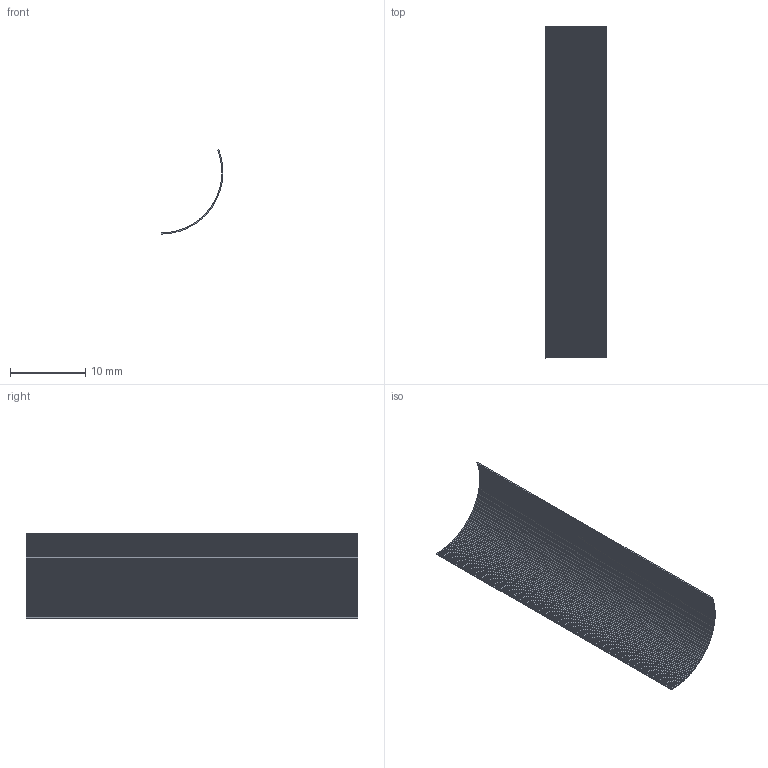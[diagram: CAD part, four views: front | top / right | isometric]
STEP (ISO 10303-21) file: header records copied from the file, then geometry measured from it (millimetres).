
FILE_DESCRIPTION(('Open CASCADE Model'),'2;1');
FILE_NAME('Open CASCADE Shape Model','2026-10-04T02:31:42',('Author'),( 'Open CASCADE'),'Open CASCADE STEP processor 8.0','Open CASCADE 8.0' ,'Unknown');
FILE_SCHEMA(('AUTOMOTIVE_DESIGN { 1 0 10303 214 1 1 1 1 }'));
Length unit declared in the file: millimetre
Products named in the file (1): Open CASCADE STEP translator 8.0 290
Bounding box: 8.19 x 44 x 11.15 mm (x, y, z)
Volume: 103.9 mm3; surface area: 1403.7 mm2
Topology: 1 solids, 1 shells, 228 faces, 678 edges, 452 vertices
Faces by surface type: plane 228
Entity records: 16306 total; most frequent: CARTESIAN_POINT 2715, DIRECTION 2492, LINE 2034, VECTOR 2034, ORIENTED_EDGE 1356, PCURVE 1356, DEFINITIONAL_REPRESENTATION 1356, EDGE_CURVE 678
